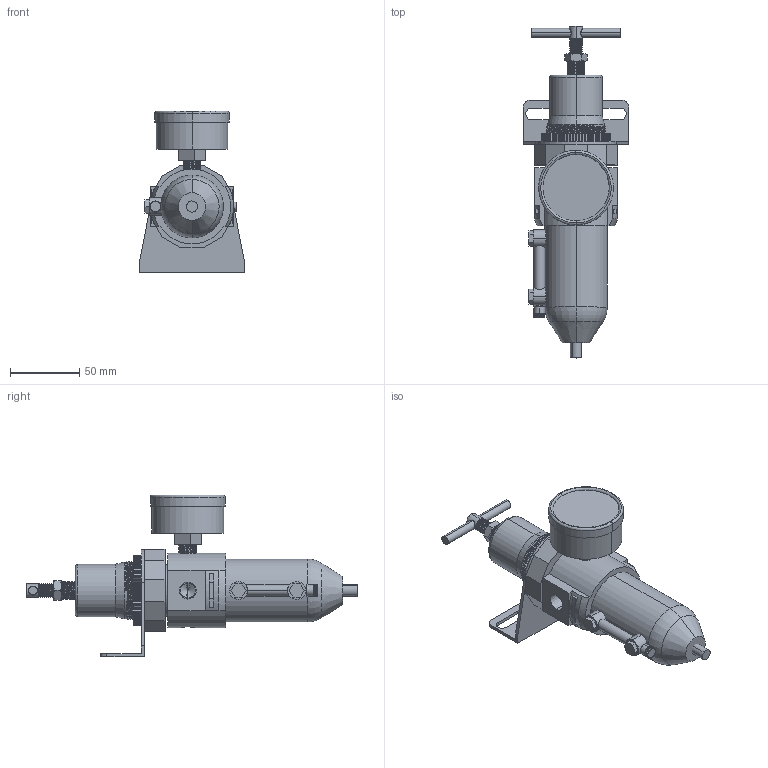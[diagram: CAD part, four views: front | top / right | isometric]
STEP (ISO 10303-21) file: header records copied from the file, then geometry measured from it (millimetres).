
FILE_DESCRIPTION (( 'STEP AP203' ), '1' );
FILE_NAME ('B012W-02#YGB#.STEP', '2016-01-14T18:09:26', ( '' ), ( '' ), 'SwSTEP 2.0', 'SolidWorks 2014', '' );
FILE_SCHEMA (( 'CONFIG_CONTROL_DESIGN' ));
Length unit declared in the file: millimetre
Products named in the file (18): B012W-02#YGB#; R011-1; D011W-04-刻度計; B011W-1; D011W-6; 50-P-AD=1-4PT.SLDPRT; KWSAR10Y57; R119-02-5; KWR10X51; R119-02-7; R011-上半部; 50-P-AD=1-4PT-2; R119-02-6; D011W-4; 50-P-AD=1-4PT-1; L606-W-06-5; D011W-5; KWSAR10Y57-1
Assembly tree (18 placements, depth 4):
  B012W-02#YGB#
    B011W-1
    50-P-AD=1-4PT.SLDPRT
      50-P-AD=1-4PT-1
      50-P-AD=1-4PT-2
    L606-W-06-5
    D011W-04-刻度計
      D011W-5  x2
      D011W-4
      D011W-6
    R011-上半部
      KWSAR10Y57
        KWSAR10Y57-1
        KWR10X51
      R011-1
      R119-02-5
      R119-02-6
      R119-02-7
Bounding box: 76 x 240 x 117 mm (x, y, z)
Volume: 411256.5 mm3; surface area: 74868.1 mm2
Topology: 14 solids, 14 shells, 747 faces, 2068 edges, 1361 vertices
Faces by surface type: plane 447, cylinder 248, cone 36, torus 8, bspline 8
Entity records: 31778 total; most frequent: CARTESIAN_POINT 11352, ORIENTED_EDGE 4072, DIRECTION 3709, EDGE_CURVE 2036, VERTEX_POINT 1345, VECTOR 1315, LINE 1315, AXIS2_PLACEMENT_3D 1197
